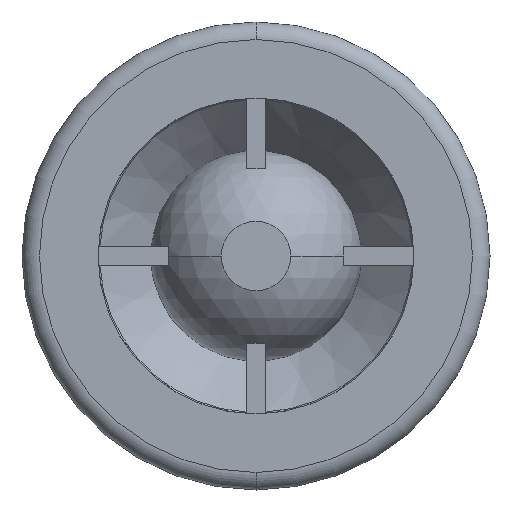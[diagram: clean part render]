
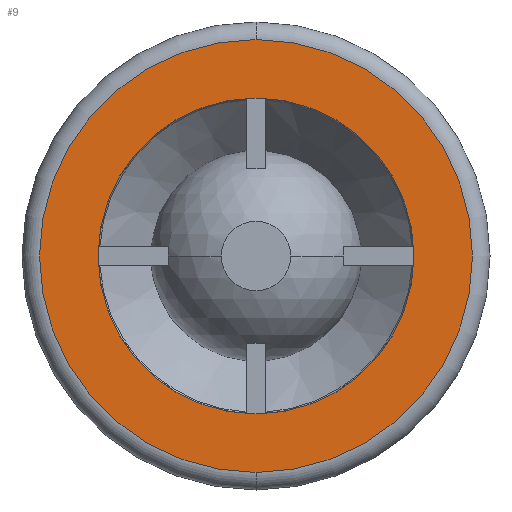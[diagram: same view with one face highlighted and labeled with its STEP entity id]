
A CAD part, front view. The second image highlights one B-rep face of the part: STEP entity #9.
In plain terms, the highlighted planar face has unit normal (0, -1, 0).
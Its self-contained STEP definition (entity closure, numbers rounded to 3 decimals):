
#7 = EDGE_CURVE ( 'NONE', #114, #116, #1602, .T. ) ;
#8 = EDGE_LOOP ( 'NONE', ( #12, #27 ) ) ;
#9 = ADVANCED_FACE ( 'NONE', ( #1660, #1659 ), #1658, .F. ) ;
#12 = ORIENTED_EDGE ( 'NONE', *, *, #7, .T. ) ;
#19 = EDGE_LOOP ( 'NONE', ( #25, #24 ) ) ;
#24 = ORIENTED_EDGE ( 'NONE', *, *, #5487, .F. ) ;
#25 = ORIENTED_EDGE ( 'NONE', *, *, #5387, .F. ) ;
#27 = ORIENTED_EDGE ( 'NONE', *, *, #117, .T. ) ;
#114 = VERTEX_POINT ( 'NONE', #1727 ) ;
#116 = VERTEX_POINT ( 'NONE', #1726 ) ;
#117 = EDGE_CURVE ( 'NONE', #116, #114, #1788, .T. ) ;
#1599 = DIRECTION ( 'NONE',  ( 0., -1., 0. ) ) ;
#1600 = CARTESIAN_POINT ( 'NONE',  ( 0., 0., 0. ) ) ;
#1601 = AXIS2_PLACEMENT_3D ( 'NONE', #1600, #1599, #1661 ) ;
#1602 = CIRCLE ( 'NONE', #1601, 18.5 ) ;
#1653 = DIRECTION ( 'NONE',  ( 0., 0., 1. ) ) ;
#1654 = DIRECTION ( 'NONE',  ( 0., 1., 0. ) ) ;
#1655 = CARTESIAN_POINT ( 'NONE',  ( -13.5, 0., 0. ) ) ;
#1657 = AXIS2_PLACEMENT_3D ( 'NONE', #1655, #1654, #1653 ) ;
#1658 = PLANE ( 'NONE',  #1657 ) ;
#1659 = FACE_BOUND ( 'NONE', #19, .T. ) ;
#1660 = FACE_OUTER_BOUND ( 'NONE', #8, .T. ) ;
#1661 = DIRECTION ( 'NONE',  ( 0., 0., 1. ) ) ;
#1726 = CARTESIAN_POINT ( 'NONE',  ( 0., 0., -18.5 ) ) ;
#1727 = CARTESIAN_POINT ( 'NONE',  ( 0., 0., 18.5 ) ) ;
#1784 = DIRECTION ( 'NONE',  ( 0., 0., 1. ) ) ;
#1785 = DIRECTION ( 'NONE',  ( 0., -1., 0. ) ) ;
#1786 = CARTESIAN_POINT ( 'NONE',  ( 0., 0., 0. ) ) ;
#1787 = AXIS2_PLACEMENT_3D ( 'NONE', #1786, #1785, #1784 ) ;
#1788 = CIRCLE ( 'NONE', #1787, 18.5 ) ;
#4532 = DIRECTION ( 'NONE',  ( 0., 0., -1. ) ) ;
#4533 = DIRECTION ( 'NONE',  ( 0., -1., 0. ) ) ;
#4534 = CARTESIAN_POINT ( 'NONE',  ( 0., 0., 0. ) ) ;
#4535 = AXIS2_PLACEMENT_3D ( 'NONE', #4534, #4533, #4532 ) ;
#4536 = CIRCLE ( 'NONE', #4535, 13.5 ) ;
#4719 = DIRECTION ( 'NONE',  ( 0., 0., -1. ) ) ;
#4720 = DIRECTION ( 'NONE',  ( 0., -1., 0. ) ) ;
#4721 = CARTESIAN_POINT ( 'NONE',  ( 0., 0., 0. ) ) ;
#4722 = AXIS2_PLACEMENT_3D ( 'NONE', #4721, #4720, #4719 ) ;
#4723 = CIRCLE ( 'NONE', #4722, 13.5 ) ;
#4764 = CARTESIAN_POINT ( 'NONE',  ( 0., 0., 13.5 ) ) ;
#4825 = CARTESIAN_POINT ( 'NONE',  ( 0., 0., -13.5 ) ) ;
#5387 = EDGE_CURVE ( 'NONE', #5541, #5493, #4536, .T. ) ;
#5487 = EDGE_CURVE ( 'NONE', #5493, #5541, #4723, .T. ) ;
#5493 = VERTEX_POINT ( 'NONE', #4764 ) ;
#5541 = VERTEX_POINT ( 'NONE', #4825 ) ;
